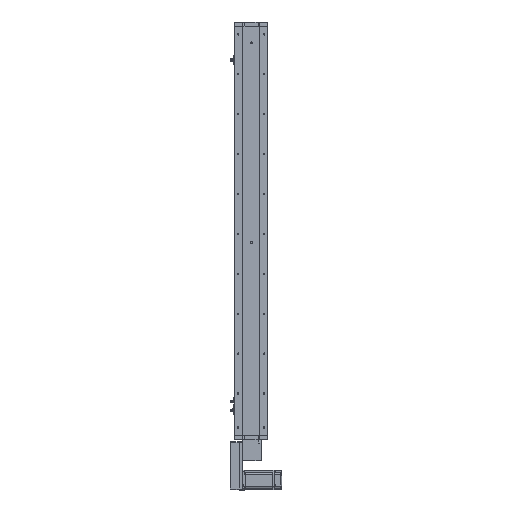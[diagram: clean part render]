
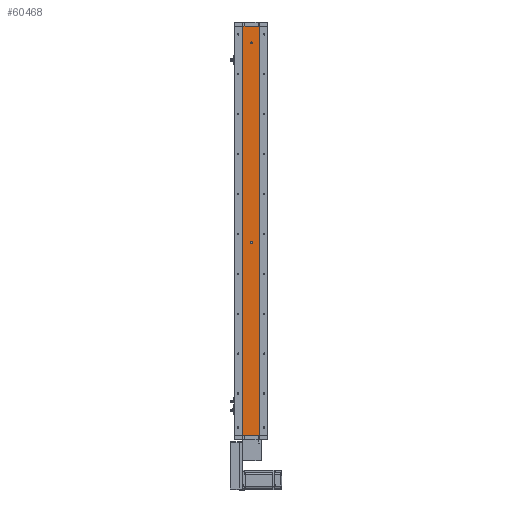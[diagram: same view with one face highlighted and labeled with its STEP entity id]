
A CAD part, left-side view. The second image highlights one B-rep face of the part: STEP entity #60468.
In plain terms, the highlighted planar face has unit normal (-1, 0, 0).
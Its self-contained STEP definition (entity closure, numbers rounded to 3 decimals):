
#853 = LINE ( 'NONE', #47028, #13597 ) ;
#3067 = VECTOR ( 'NONE', #69010, 1000. ) ;
#3640 = EDGE_CURVE ( 'NONE', #17778, #20557, #6755, .T. ) ;
#3840 = EDGE_LOOP ( 'NONE', ( #4740, #34297, #20500, #13446 ) ) ;
#4173 = CARTESIAN_POINT ( 'NONE',  ( -18.926, -24.785, 1230. ) ) ;
#4259 = LINE ( 'NONE', #69731, #33294 ) ;
#4429 = VERTEX_POINT ( 'NONE', #46302 ) ;
#4444 = AXIS2_PLACEMENT_3D ( 'NONE', #44611, #11973, #50016 ) ;
#4740 = ORIENTED_EDGE ( 'NONE', *, *, #27840, .T. ) ;
#6371 = CARTESIAN_POINT ( 'NONE',  ( -18.926, 24.785, 0. ) ) ;
#6372 = VERTEX_POINT ( 'NONE', #52132 ) ;
#6755 = CIRCLE ( 'NONE', #40264, 3. ) ;
#8837 = CARTESIAN_POINT ( 'NONE',  ( -18.926, 0., 1183. ) ) ;
#9141 = CARTESIAN_POINT ( 'NONE',  ( -18.926, 0., 1180. ) ) ;
#10489 = VERTEX_POINT ( 'NONE', #4173 ) ;
#10650 = ORIENTED_EDGE ( 'NONE', *, *, #40273, .F. ) ;
#11561 = VECTOR ( 'NONE', #17368, 1000. ) ;
#11973 = DIRECTION ( 'NONE',  ( 1., 0., 0. ) ) ;
#13001 = EDGE_CURVE ( 'NONE', #20557, #17778, #47408, .T. ) ;
#13446 = ORIENTED_EDGE ( 'NONE', *, *, #22981, .T. ) ;
#13597 = VECTOR ( 'NONE', #19819, 1000. ) ;
#13961 = CARTESIAN_POINT ( 'NONE',  ( -18.926, 0., 580. ) ) ;
#14565 = DIRECTION ( 'NONE',  ( 0., 0., 1. ) ) ;
#17368 = DIRECTION ( 'NONE',  ( 0., -1., 0. ) ) ;
#17778 = VERTEX_POINT ( 'NONE', #8837 ) ;
#18443 = DIRECTION ( 'NONE',  ( -1., 0., 0. ) ) ;
#19454 = DIRECTION ( 'NONE',  ( 0., 0., 1. ) ) ;
#19819 = DIRECTION ( 'NONE',  ( 0., 0., -1. ) ) ;
#20500 = ORIENTED_EDGE ( 'NONE', *, *, #51611, .F. ) ;
#20557 = VERTEX_POINT ( 'NONE', #60930 ) ;
#20664 = EDGE_LOOP ( 'NONE', ( #22357, #49128 ) ) ;
#21682 = FACE_BOUND ( 'NONE', #20664, .T. ) ;
#22357 = ORIENTED_EDGE ( 'NONE', *, *, #3640, .F. ) ;
#22981 = EDGE_CURVE ( 'NONE', #63171, #4429, #4259, .T. ) ;
#25934 = CARTESIAN_POINT ( 'NONE',  ( -18.926, 24.785, 1230. ) ) ;
#27840 = EDGE_CURVE ( 'NONE', #4429, #36647, #67787, .T. ) ;
#28034 = CARTESIAN_POINT ( 'NONE',  ( -18.926, 0., 583. ) ) ;
#28982 = DIRECTION ( 'NONE',  ( -1., 0., 0. ) ) ;
#29405 = AXIS2_PLACEMENT_3D ( 'NONE', #13961, #52114, #19454 ) ;
#30543 = VERTEX_POINT ( 'NONE', #28034 ) ;
#31011 = CARTESIAN_POINT ( 'NONE',  ( -18.926, 24.785, 1230. ) ) ;
#33294 = VECTOR ( 'NONE', #37223, 1000. ) ;
#34297 = ORIENTED_EDGE ( 'NONE', *, *, #63997, .F. ) ;
#35075 = AXIS2_PLACEMENT_3D ( 'NONE', #51071, #18443, #56555 ) ;
#36261 = ORIENTED_EDGE ( 'NONE', *, *, #45542, .F. ) ;
#36647 = VERTEX_POINT ( 'NONE', #70555 ) ;
#37223 = DIRECTION ( 'NONE',  ( 0., 0., -1. ) ) ;
#39278 = EDGE_LOOP ( 'NONE', ( #36261, #10650 ) ) ;
#40264 = AXIS2_PLACEMENT_3D ( 'NONE', #9141, #47261, #14565 ) ;
#40273 = EDGE_CURVE ( 'NONE', #6372, #30543, #66531, .T. ) ;
#44611 = CARTESIAN_POINT ( 'NONE',  ( -18.926, 24.785, 1230. ) ) ;
#45381 = CIRCLE ( 'NONE', #57468, 3. ) ;
#45542 = EDGE_CURVE ( 'NONE', #30543, #6372, #45381, .T. ) ;
#46302 = CARTESIAN_POINT ( 'NONE',  ( -18.926, 24.785, 0. ) ) ;
#47028 = CARTESIAN_POINT ( 'NONE',  ( -18.926, -24.785, 1230. ) ) ;
#47261 = DIRECTION ( 'NONE',  ( -1., 0., 0. ) ) ;
#47408 = CIRCLE ( 'NONE', #35075, 3. ) ;
#49128 = ORIENTED_EDGE ( 'NONE', *, *, #13001, .F. ) ;
#50016 = DIRECTION ( 'NONE',  ( 0., 0., -1. ) ) ;
#50655 = FACE_OUTER_BOUND ( 'NONE', #3840, .T. ) ;
#51071 = CARTESIAN_POINT ( 'NONE',  ( -18.926, 0., 1180. ) ) ;
#51611 = EDGE_CURVE ( 'NONE', #63171, #10489, #61049, .T. ) ;
#52114 = DIRECTION ( 'NONE',  ( -1., 0., 0. ) ) ;
#52132 = CARTESIAN_POINT ( 'NONE',  ( -18.926, 0., 577. ) ) ;
#55261 = PLANE ( 'NONE',  #4444 ) ;
#56555 = DIRECTION ( 'NONE',  ( 0., 0., 1. ) ) ;
#57468 = AXIS2_PLACEMENT_3D ( 'NONE', #61617, #28982, #67097 ) ;
#60468 = ADVANCED_FACE ( 'NONE', ( #63394, #21682, #50655 ), #55261, .F. ) ;
#60930 = CARTESIAN_POINT ( 'NONE',  ( -18.926, 0., 1177. ) ) ;
#61049 = LINE ( 'NONE', #31011, #3067 ) ;
#61617 = CARTESIAN_POINT ( 'NONE',  ( -18.926, 0., 580. ) ) ;
#63171 = VERTEX_POINT ( 'NONE', #25934 ) ;
#63394 = FACE_BOUND ( 'NONE', #39278, .T. ) ;
#63997 = EDGE_CURVE ( 'NONE', #10489, #36647, #853, .T. ) ;
#66531 = CIRCLE ( 'NONE', #29405, 3. ) ;
#67097 = DIRECTION ( 'NONE',  ( 0., 0., 1. ) ) ;
#67787 = LINE ( 'NONE', #6371, #11561 ) ;
#69010 = DIRECTION ( 'NONE',  ( 0., -1., 0. ) ) ;
#69731 = CARTESIAN_POINT ( 'NONE',  ( -18.926, 24.785, 1230. ) ) ;
#70555 = CARTESIAN_POINT ( 'NONE',  ( -18.926, -24.785, 0. ) ) ;
